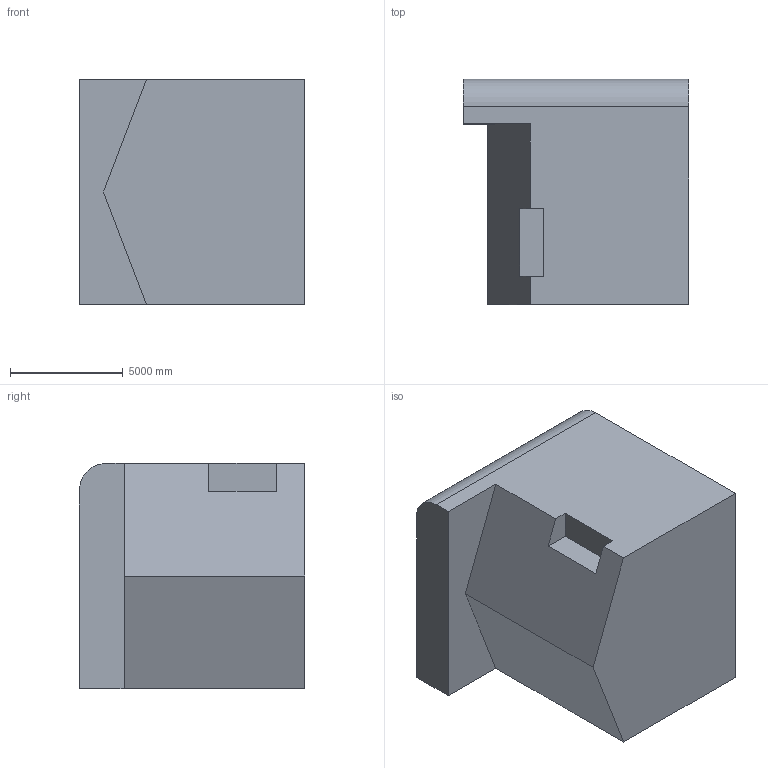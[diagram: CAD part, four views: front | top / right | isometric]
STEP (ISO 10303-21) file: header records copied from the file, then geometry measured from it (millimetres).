
FILE_DESCRIPTION (( 'STEP AP203' ), '1' );
FILE_NAME ('235.STEP', '2022-07-28T13:59:48', ( 'user' ), ( '' ), 'SwSTEP 2.0', 'SolidWorks 2021', '' );
FILE_SCHEMA (( 'CONFIG_CONTROL_DESIGN' ));
Length unit declared in the file: centimetre
Products named in the file (1): 235
Bounding box: 10000 x 10000 x 10000 mm (x, y, z)
Volume: 831232808583 mm3; surface area: 555171394.7 mm2
Topology: 1 solids, 1 shells, 14 faces, 36 edges, 24 vertices
Faces by surface type: plane 13, cylinder 1
Entity records: 499 total; most frequent: CARTESIAN_POINT 75, ORIENTED_EDGE 72, DIRECTION 68, EDGE_CURVE 36, VECTOR 34, LINE 34, VERTEX_POINT 24, AXIS2_PLACEMENT_3D 17
